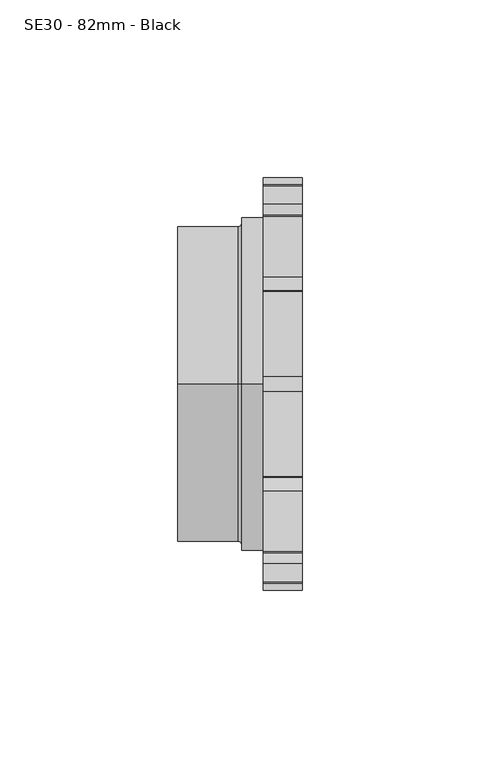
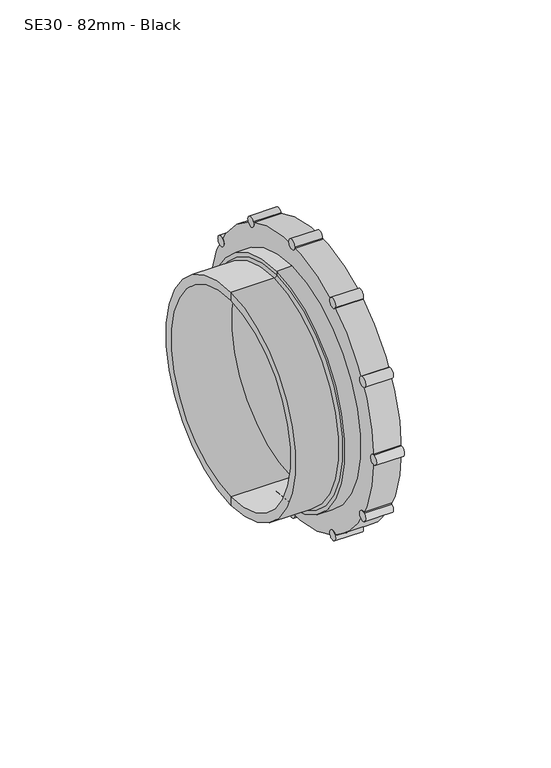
"""IFC4 building model written with IfcOpenShell, lengths in millimetres: pipe fitting geometry, MarleyPlumbingAndDrainage_PipeFitting_AccessCaps : SE30 - 82mm - Black."""

from ifc_helpers import new_model, si_unit, point, frame, frame_2d, origin, place, context, project, spatial, polyline, circle_curve, ellipse_curve, trimmed, segment, composite_curve, outline, extrude, source, transform, mapped, element, save
from ifc_brep_helpers import plane_surface, cylinder_surface, revolved_surface, advanced_brep


def se30_82mm_black_4757cc3a(model_context):
    return source(origin(), model_context, "Body", "SolidModel", [
        extrude(outline(composite_curve([segment(trimmed(circle_curve(frame_2d((48.4974226, 28.0)), 2.0), [point((47.4974226, 29.7320508))], [point((49.4974226, 26.2679492))], False, "CARTESIAN"), True, "CONTINUOUS"), segment(trimmed(circle_curve(frame_2d((48.4974226, 28.0)), 2.0), [point((49.4974226, 26.2679492))], [point((47.4974226, 29.7320508))], False, "CARTESIAN"), True, "CONTINUOUS")], self_intersect=False)), frame((-330.6858175, 0.0, 0.0), z_axis=(1.0, 0.0, 0.0), x_axis=(0.0, 1.0, 0.0)), (0.0, 0.0, 1.0), 11.0),
        extrude(outline(composite_curve([segment(trimmed(circle_curve(frame_2d((56.0, 0.0)), 2.0), [point((56.0, 2.0))], [point((56.0, -2.0))], False, "CARTESIAN"), True, "CONTINUOUS"), segment(trimmed(circle_curve(frame_2d((56.0, 0.0)), 2.0), [point((56.0, -2.0))], [point((56.0, 2.0))], False, "CARTESIAN"), True, "CONTINUOUS")], self_intersect=False)), frame((-330.6858175, 0.0, 0.0), z_axis=(1.0, 0.0, 0.0), x_axis=(0.0, 1.0, 0.0)), (0.0, 0.0, 1.0), 11.0),
        extrude(outline(composite_curve([segment(trimmed(circle_curve(frame_2d((48.4974226, -28.0)), 2.0), [point((49.4974226, -26.2679492))], [point((47.4974226, -29.7320508))], False, "CARTESIAN"), True, "CONTINUOUS"), segment(trimmed(circle_curve(frame_2d((48.4974226, -28.0)), 2.0), [point((47.4974226, -29.7320508))], [point((49.4974226, -26.2679492))], False, "CARTESIAN"), True, "CONTINUOUS")], self_intersect=False)), frame((-330.6858175, 0.0, 0.0), z_axis=(1.0, 0.0, 0.0), x_axis=(0.0, 1.0, 0.0)), (0.0, 0.0, 1.0), 11.0),
        extrude(outline(composite_curve([segment(trimmed(circle_curve(frame_2d((28.0, -48.4974226)), 2.0), [point((29.7320508, -47.4974226))], [point((26.2679492, -49.4974226))], False, "CARTESIAN"), True, "CONTINUOUS"), segment(trimmed(circle_curve(frame_2d((28.0, -48.4974226)), 2.0), [point((26.2679492, -49.4974226))], [point((29.7320508, -47.4974226))], False, "CARTESIAN"), True, "CONTINUOUS")], self_intersect=False)), frame((-330.6858175, 0.0, 0.0), z_axis=(1.0, 0.0, 0.0), x_axis=(0.0, 1.0, 0.0)), (0.0, 0.0, 1.0), 11.0),
        extrude(outline(composite_curve([segment(trimmed(circle_curve(frame_2d((0.0, -56.0)), 2.0), [point((2.0, -56.0))], [point((-2.0, -56.0))], False, "CARTESIAN"), True, "CONTINUOUS"), segment(trimmed(circle_curve(frame_2d((0.0, -56.0)), 2.0), [point((-2.0, -56.0))], [point((2.0, -56.0))], False, "CARTESIAN"), True, "CONTINUOUS")], self_intersect=False)), frame((-330.6858175, 0.0, 0.0), z_axis=(1.0, 0.0, 0.0), x_axis=(0.0, 1.0, 0.0)), (0.0, 0.0, 1.0), 11.0),
        extrude(outline(composite_curve([segment(trimmed(circle_curve(frame_2d((-28.0, -48.4974226)), 2.0), [point((-26.2679492, -49.4974226))], [point((-29.7320508, -47.4974226))], False, "CARTESIAN"), True, "CONTINUOUS"), segment(trimmed(circle_curve(frame_2d((-28.0, -48.4974226)), 2.0), [point((-29.7320508, -47.4974226))], [point((-26.2679492, -49.4974226))], False, "CARTESIAN"), True, "CONTINUOUS")], self_intersect=False)), frame((-330.6858175, 0.0, 0.0), z_axis=(1.0, 0.0, 0.0), x_axis=(0.0, 1.0, 0.0)), (0.0, 0.0, 1.0), 11.0),
        extrude(outline(composite_curve([segment(trimmed(circle_curve(frame_2d((-48.4974226, -28.0)), 2.0), [point((-47.4974226, -29.7320508))], [point((-49.4974226, -26.2679492))], False, "CARTESIAN"), True, "CONTINUOUS"), segment(trimmed(circle_curve(frame_2d((-48.4974226, -28.0)), 2.0), [point((-49.4974226, -26.2679492))], [point((-47.4974226, -29.7320508))], False, "CARTESIAN"), True, "CONTINUOUS")], self_intersect=False)), frame((-330.6858175, 0.0, 0.0), z_axis=(1.0, 0.0, 0.0), x_axis=(0.0, 1.0, 0.0)), (0.0, 0.0, 1.0), 11.0),
        extrude(outline(composite_curve([segment(trimmed(circle_curve(frame_2d((-56.0, 0.0)), 2.0), [point((-56.0, -2.0))], [point((-56.0, 2.0))], False, "CARTESIAN"), True, "CONTINUOUS"), segment(trimmed(circle_curve(frame_2d((-56.0, 0.0)), 2.0), [point((-56.0, 2.0))], [point((-56.0, -2.0))], False, "CARTESIAN"), True, "CONTINUOUS")], self_intersect=False)), frame((-330.6858175, 0.0, 0.0), z_axis=(1.0, 0.0, 0.0), x_axis=(0.0, 1.0, 0.0)), (0.0, 0.0, 1.0), 11.0),
        extrude(outline(composite_curve([segment(trimmed(circle_curve(frame_2d((-48.4974226, 28.0)), 2.0), [point((-49.4974226, 26.2679492))], [point((-47.4974226, 29.7320508))], False, "CARTESIAN"), True, "CONTINUOUS"), segment(trimmed(circle_curve(frame_2d((-48.4974226, 28.0)), 2.0), [point((-47.4974226, 29.7320508))], [point((-49.4974226, 26.2679492))], False, "CARTESIAN"), True, "CONTINUOUS")], self_intersect=False)), frame((-330.6858175, 0.0, 0.0), z_axis=(1.0, 0.0, 0.0), x_axis=(0.0, 1.0, 0.0)), (0.0, 0.0, 1.0), 11.0),
        extrude(outline(composite_curve([segment(trimmed(circle_curve(frame_2d((-28.0, 48.4974226)), 2.0), [point((-29.7320508, 47.4974226))], [point((-26.2679492, 49.4974226))], False, "CARTESIAN"), True, "CONTINUOUS"), segment(trimmed(circle_curve(frame_2d((-28.0, 48.4974226)), 2.0), [point((-26.2679492, 49.4974226))], [point((-29.7320508, 47.4974226))], False, "CARTESIAN"), True, "CONTINUOUS")], self_intersect=False)), frame((-330.6858175, 0.0, 0.0), z_axis=(1.0, 0.0, 0.0), x_axis=(0.0, 1.0, 0.0)), (0.0, 0.0, 1.0), 11.0),
        extrude(outline(composite_curve([segment(trimmed(circle_curve(frame_2d((28.0, 48.4974226)), 2.0), [point((26.2679492, 49.4974226))], [point((29.7320508, 47.4974226))], False, "CARTESIAN"), True, "CONTINUOUS"), segment(trimmed(circle_curve(frame_2d((28.0, 48.4974226)), 2.0), [point((29.7320508, 47.4974226))], [point((26.2679492, 49.4974226))], False, "CARTESIAN"), True, "CONTINUOUS")], self_intersect=False)), frame((-330.6858175, 0.0, 0.0), z_axis=(1.0, 0.0, 0.0), x_axis=(0.0, 1.0, 0.0)), (0.0, 0.0, 1.0), 11.0),
        extrude(outline(composite_curve([segment(trimmed(circle_curve(frame_2d((0.0, 56.0)), 2.0), [point((-2.0, 56.0))], [point((2.0, 56.0))], False, "CARTESIAN"), True, "CONTINUOUS"), segment(trimmed(circle_curve(frame_2d((0.0, 56.0)), 2.0), [point((2.0, 56.0))], [point((-2.0, 56.0))], False, "CARTESIAN"), True, "CONTINUOUS")], self_intersect=False)), frame((-330.6858175, 0.0, 0.0), z_axis=(1.0, 0.0, 0.0), x_axis=(0.0, 1.0, 0.0)), (0.0, 0.0, 1.0), 11.0),
        advanced_brep(
        [(-319.6858175, -56.0, 0.0), (-319.6858175, 56.0, 0.0), (-319.6858175, -20.0908802, -48.5036755), (-319.6858175, -18.7514882, -45.2700971), (-319.6858175, 18.7514882, -45.2700971), (-319.6858175, 20.0908802, -48.5036755), (-319.6858175, 48.5036755, -20.0908802), (-319.6858175, 45.2700971, -18.7514882), (-319.6858175, 45.2700971, 18.7514882), (-319.6858175, 48.5036755, 20.0908802), (-319.6858175, -45.2700971, 18.7514882), (-319.6858175, -45.2700971, -18.7514882), (-319.6858175, -48.5036755, -20.0908802), (-319.6858175, -48.5036755, 20.0908802), (-319.6858175, -18.7514882, 45.2700971), (-319.6858175, -20.0908802, 48.5036755), (-319.6858175, 20.0908802, 48.5036755), (-319.6858175, 18.7514882, 45.2700971), (-330.6858175, -56.0, 0.0), (-330.6858175, 56.0, 0.0), (-330.6858175, 0.0, -47.0), (-330.6858175, 0.0, 47.0), (-330.6858175, 0.0, 41.0), (-330.6858175, 0.0, -41.0), (-325.6858175, -18.7514882, -45.2700971), (-325.6858175, -20.0908802, -48.5036755), (-325.6858175, 20.0908802, -48.5036755), (-325.6858175, 18.7514882, -45.2700971), (-325.6858175, 45.2700971, -18.7514882), (-325.6858175, 48.5036755, -20.0908802), (-325.6858175, 48.5036755, 20.0908802), (-325.6858175, 45.2700971, 18.7514882), (-325.6858175, -45.2700971, -18.7514882), (-325.6858175, -45.2700971, 18.7514882), (-325.6858175, -48.5036755, 20.0908802), (-325.6858175, -48.5036755, -20.0908802), (-325.6858175, -20.0908802, 48.5036755), (-325.6858175, -18.7514882, 45.2700971), (-325.6858175, 18.7514882, 45.2700971), (-325.6858175, 20.0908802, 48.5036755), (-336.6858175, 0.0, -47.0), (-336.6858175, 0.0, 47.0), (-336.6858175, 0.0, -45.5), (-336.6858175, 0.0, 45.5), (-337.6858175, 0.0, -44.5), (-337.6858175, 0.0, 44.5), (-354.6858175, 0.0, -44.5), (-354.6858175, 0.0, 44.5), (-354.6858175, 0.0, -41.0), (-354.6858175, 0.0, 41.0)],
        [
            (0, 1, circle_curve(frame((-319.6858175, 0.0, 0.0), z_axis=(1.0, 0.0, 0.0), x_axis=(0.0, 1.0, 0.0)), 56.0)),
            (1, 0, circle_curve(frame((-319.6858175, 0.0, 0.0), z_axis=(1.0, 0.0, 0.0), x_axis=(0.0, 1.0, 0.0)), 56.0)),
            (2, 3),
            (3, 4, circle_curve(frame((-319.6858175, 0.0, 0.0), z_axis=(1.0, 0.0, 0.0), x_axis=(0.0, 1.0, 0.0)), 49.0)),
            (4, 5),
            (5, 2, circle_curve(frame((-319.6858175, 0.0, 0.0), z_axis=(-1.0, 0.0, 0.0), x_axis=(0.0, 1.0, 0.0)), 52.5)),
            (6, 7),
            (7, 8, circle_curve(frame((-319.6858175, 0.0, 0.0), z_axis=(1.0, 0.0, 0.0), x_axis=(0.0, 1.0, 0.0)), 49.0)),
            (8, 9),
            (9, 6, circle_curve(frame((-319.6858175, 0.0, 0.0), z_axis=(-1.0, 0.0, 0.0), x_axis=(0.0, 1.0, 0.0)), 52.5)),
            (10, 11, circle_curve(frame((-319.6858175, 0.0, 0.0), z_axis=(1.0, 0.0, 0.0), x_axis=(0.0, 1.0, 0.0)), 49.0)),
            (11, 12),
            (12, 13, circle_curve(frame((-319.6858175, 0.0, 0.0), z_axis=(-1.0, 0.0, 0.0), x_axis=(0.0, 1.0, 0.0)), 52.5)),
            (13, 10),
            (14, 15),
            (15, 16, circle_curve(frame((-319.6858175, 0.0, 0.0), z_axis=(-1.0, 0.0, 0.0), x_axis=(0.0, 1.0, 0.0)), 52.5)),
            (16, 17),
            (17, 14, circle_curve(frame((-319.6858175, 0.0, 0.0), z_axis=(1.0, 0.0, 0.0), x_axis=(0.0, 1.0, 0.0)), 49.0)),
            (18, 19, circle_curve(frame((-330.6858175, 0.0, 0.0), z_axis=(-1.0, 0.0, 0.0), x_axis=(0.0, 1.0, 0.0)), 56.0)),
            (19, 18, circle_curve(frame((-330.6858175, 0.0, 0.0), z_axis=(-1.0, 0.0, 0.0), x_axis=(0.0, 1.0, 0.0)), 56.0)),
            (20, 21, circle_curve(frame((-330.6858175, 0.0, 0.0), z_axis=(1.0, 0.0, 0.0), x_axis=(0.0, 0.0, 1.0)), 47.0)),
            (21, 20, circle_curve(frame((-330.6858175, 0.0, 0.0), z_axis=(1.0, 0.0, 0.0), x_axis=(0.0, 0.0, 1.0)), 47.0)),
            (22, 23, circle_curve(frame((-330.6858175, 0.0, 0.0), z_axis=(-1.0, 0.0, 0.0), x_axis=(0.0, 0.0, 1.0)), 41.0)),
            (23, 22, circle_curve(frame((-330.6858175, 0.0, 0.0), z_axis=(-1.0, 0.0, 0.0), x_axis=(0.0, 0.0, 1.0)), 41.0)),
            (0, 18),
            (19, 1),
            (24, 25),
            (25, 26, circle_curve(frame((-325.6858175, 0.0, 0.0), z_axis=(1.0, 0.0, 0.0), x_axis=(0.0, 1.0, 0.0)), 52.5)),
            (26, 27),
            (27, 24, circle_curve(frame((-325.6858175, 0.0, 0.0), z_axis=(-1.0, 0.0, 0.0), x_axis=(0.0, 1.0, 0.0)), 49.0)),
            (28, 29),
            (29, 30, circle_curve(frame((-325.6858175, 0.0, 0.0), z_axis=(1.0, 0.0, 0.0), x_axis=(0.0, 1.0, 0.0)), 52.5)),
            (30, 31),
            (31, 28, circle_curve(frame((-325.6858175, 0.0, 0.0), z_axis=(-1.0, 0.0, 0.0), x_axis=(0.0, 1.0, 0.0)), 49.0)),
            (32, 33, circle_curve(frame((-325.6858175, 0.0, 0.0), z_axis=(-1.0, 0.0, 0.0), x_axis=(0.0, 1.0, 0.0)), 49.0)),
            (33, 34),
            (34, 35, circle_curve(frame((-325.6858175, 0.0, 0.0), z_axis=(1.0, 0.0, 0.0), x_axis=(0.0, 1.0, 0.0)), 52.5)),
            (35, 32),
            (36, 37),
            (37, 38, circle_curve(frame((-325.6858175, 0.0, 0.0), z_axis=(-1.0, 0.0, 0.0), x_axis=(0.0, 1.0, 0.0)), 49.0)),
            (38, 39),
            (39, 36, circle_curve(frame((-325.6858175, 0.0, 0.0), z_axis=(1.0, 0.0, 0.0), x_axis=(0.0, 1.0, 0.0)), 52.5)),
            (24, 3),
            (2, 25),
            (5, 26),
            (4, 27),
            (28, 7),
            (6, 29),
            (9, 30),
            (8, 31),
            (32, 11),
            (10, 33),
            (13, 34),
            (12, 35),
            (36, 15),
            (14, 37),
            (17, 38),
            (16, 39),
            (40, 41, circle_curve(frame((-336.6858175, 0.0, 0.0), z_axis=(1.0, 0.0, 0.0), x_axis=(0.0, 0.0, 1.0)), 47.0)),
            (41, 21),
            (20, 40),
            (41, 40, circle_curve(frame((-336.6858175, 0.0, 0.0), z_axis=(1.0, 0.0, 0.0), x_axis=(0.0, 0.0, 1.0)), 47.0)),
            (40, 42),
            (42, 43, circle_curve(frame((-336.6858175, 0.0, 0.0), z_axis=(1.0, 0.0, 0.0), x_axis=(0.0, 0.0, 1.0)), 45.5)),
            (43, 41),
            (43, 42, circle_curve(frame((-336.6858175, 0.0, 0.0), z_axis=(1.0, 0.0, 0.0), x_axis=(0.0, 0.0, 1.0)), 45.5)),
            (42, 44, circle_curve(frame((-337.6858175, 0.0, -45.5), z_axis=(0.0, -1.0, 0.0), x_axis=(1.0, 0.0, 0.0)), 1.0)),
            (44, 45, circle_curve(frame((-337.6858175, 0.0, 0.0), z_axis=(1.0, 0.0, 0.0), x_axis=(0.0, 0.0, 1.0)), 44.5)),
            (45, 43, circle_curve(frame((-337.6858175, 0.0, 45.5), z_axis=(0.0, -1.0, 0.0), x_axis=(1.0, 0.0, 0.0)), 1.0)),
            (45, 44, circle_curve(frame((-337.6858175, 0.0, 0.0), z_axis=(1.0, 0.0, 0.0), x_axis=(0.0, 0.0, 1.0)), 44.5)),
            (44, 46),
            (46, 47, circle_curve(frame((-354.6858175, 0.0, 0.0), z_axis=(1.0, 0.0, 0.0), x_axis=(0.0, 0.0, 1.0)), 44.5)),
            (47, 45),
            (47, 46, circle_curve(frame((-354.6858175, 0.0, 0.0), z_axis=(1.0, 0.0, 0.0), x_axis=(0.0, 0.0, 1.0)), 44.5)),
            (46, 48),
            (48, 49, circle_curve(frame((-354.6858175, 0.0, 0.0), z_axis=(1.0, 0.0, 0.0), x_axis=(0.0, 0.0, 1.0)), 41.0)),
            (49, 47),
            (49, 48, circle_curve(frame((-354.6858175, 0.0, 0.0), z_axis=(1.0, 0.0, 0.0), x_axis=(0.0, 0.0, 1.0)), 41.0)),
            (48, 23),
            (22, 49),
        ],
        [
            plane_surface(frame((-319.6858175, 56.0, 0.0), z_axis=(1.0, 0.0, 0.0), x_axis=(0.0, 0.0, 1.0))),
            plane_surface(frame((-330.6858175, 56.0, 0.0), z_axis=(-1.0, 0.0, 0.0), x_axis=(0.0, 0.0, -1.0))),
            cylinder_surface(frame((-330.6858175, 0.0, 0.0), z_axis=(1.0, 0.0, 0.0), x_axis=(0.0, 1.0, 0.0)), 56.0),
            plane_surface(frame((-325.6858175, -20.0908802, -48.5036755), z_axis=(1.0, 0.0, 0.0), x_axis=(0.0, 0.3826834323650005, 0.9238795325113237))),
            plane_surface(frame((-319.6858175, -18.7514882, -45.2700971), z_axis=(0.0, 0.9238795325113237, -0.3826834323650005), x_axis=(-1.0, 0.0, 0.0))),
            revolved_surface(polyline([(-319.6858175, 52.5, 0.0), (-325.6858175, 52.5, 0.0)]), (-325.6858175, 0.0, 0.0), (1.0, 0.0, 0.0)),
            plane_surface(frame((-319.6858175, 20.0908802, -48.5036755), z_axis=(0.0, -0.9238795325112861, -0.3826834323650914), x_axis=(-1.0, 0.0, 0.0))),
            cylinder_surface(frame((-325.6858175, 0.0, 0.0), z_axis=(-1.0, 0.0, 0.0), x_axis=(0.0, 1.0, 0.0)), 49.0),
            plane_surface(frame((-319.6858175, 45.2700971, -18.7514882), z_axis=(0.0, 0.3826834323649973, 0.9238795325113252), x_axis=(-1.0, 0.0, 0.0))),
            revolved_surface(polyline([(-319.6858175, 52.5, 0.0), (-325.6858175, 52.5, 0.0)]), (-330.6858175, 0.0, 0.0), (1.0, 0.0, 0.0)),
            plane_surface(frame((-319.6858175, 48.5036755, 20.0908802), z_axis=(0.0, 0.3826834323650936, -0.9238795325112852), x_axis=(-1.0, 0.0, 0.0))),
            cylinder_surface(frame((-330.6858175, 0.0, 0.0), z_axis=(-1.0, 0.0, 0.0), x_axis=(0.0, 1.0, 0.0)), 49.0),
            plane_surface(frame((-319.6858175, -45.2700971, 18.7514882), z_axis=(0.0, -0.38268343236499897, -0.9238795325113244), x_axis=(-1.0, 0.0, 0.0))),
            plane_surface(frame((-319.6858175, -48.5036755, -20.0908802), z_axis=(0.0, -0.3826834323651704, 0.9238795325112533), x_axis=(-1.0, 0.0, 0.0))),
            plane_surface(frame((-319.6858175, -20.0908802, 48.5036755), z_axis=(0.0, 0.9238795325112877, 0.38268343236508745), x_axis=(-1.0, 0.0, 0.0))),
            plane_surface(frame((-319.6858175, 18.7514882, 45.2700971), z_axis=(0.0, -0.9238795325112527, 0.38268343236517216), x_axis=(-1.0, 0.0, 0.0))),
            cylinder_surface(frame((-1513.0299635, 0.0, 0.0), z_axis=(-1.0, 0.0, 0.0), x_axis=(0.0, 0.0, 1.0)), 47.0),
            plane_surface(frame((-336.6858175, 0.0, 0.0), z_axis=(-1.0, 0.0, 0.0), x_axis=(0.0, 0.0, 1.0))),
            revolved_surface(trimmed(ellipse_curve(frame((-337.6858175, 0.0, 45.5), z_axis=(0.0, 1.0, 0.0), x_axis=(1.0, 0.0, 0.0)), 1.0, 1.0), [point((-336.6858175, 0.0, 45.5))], [point((-337.6858175, 0.0, 44.5))], True, "CARTESIAN"), (-1513.0299635, 0.0, 0.0), (-1.0, 0.0, 0.0)),
            cylinder_surface(frame((-1513.0299635, 0.0, 0.0), z_axis=(-1.0, 0.0, 0.0), x_axis=(0.0, 0.0, 1.0)), 44.5),
            plane_surface(frame((-354.6858175, 0.0, 0.0), z_axis=(-1.0, 0.0, 0.0), x_axis=(0.0, 0.0, 1.0))),
            revolved_surface(polyline([(-354.6858175, 0.0, 41.0), (-330.6858175, 0.0, 41.0)]), (-1513.0299635, 0.0, 0.0), (-1.0, 0.0, 0.0)),
        ],
        [
            (0, [[1, 2], [3, 4, 5, 6], [7, 8, 9, 10], [11, 12, 13, 14], [15, 16, 17, 18]]),
            (1, [[19, 20], [21, 22]]),
            (1, [[23, 24]]),
            (2, [[-1, 25, -20, 26]]),
            (2, [[-2, -26, -19, -25]]),
            (3, [[27, 28, 29, 30]]),
            (3, [[31, 32, 33, 34]]),
            (3, [[35, 36, 37, 38]]),
            (3, [[39, 40, 41, 42]]),
            (4, [[-27, 43, -3, 44]]),
            (5, [[-28, -44, -6, 45]]),
            (6, [[-29, -45, -5, 46]]),
            (7, [[-30, -46, -4, -43]]),
            (8, [[-31, 47, -7, 48]]),
            (9, [[-32, -48, -10, 49]]),
            (10, [[-33, -49, -9, 50]]),
            (11, [[-34, -50, -8, -47]]),
            (11, [[-35, 51, -11, 52]]),
            (12, [[-36, -52, -14, 53]]),
            (9, [[-37, -53, -13, 54]]),
            (13, [[-38, -54, -12, -51]]),
            (14, [[-39, 55, -15, 56]]),
            (11, [[-40, -56, -18, 57]]),
            (15, [[-41, -57, -17, 58]]),
            (9, [[-42, -58, -16, -55]]),
            (16, [[59, 60, -21, 61]]),
            (16, [[-60, 62, -61, -22]]),
            (17, [[-59, 63, 64, 65]]),
            (17, [[-62, -65, 66, -63]]),
            (18, [[-64, 67, 68, 69]]),
            (18, [[-66, -69, 70, -67]]),
            (19, [[-68, 71, 72, 73]]),
            (19, [[-70, -73, 74, -71]]),
            (20, [[-72, 75, 76, 77]]),
            (20, [[-74, -77, 78, -75]]),
            (21, [[-76, 79, -23, 80]]),
            (21, [[-78, -80, -24, -79]]),
        ],
    ),
    ])


if __name__ == "__main__":
    model = new_model("IFC4")
    model_context = context("Model", 3, world=origin())
    ifc_project = project(units=[si_unit("LENGTHUNIT", "METRE", prefix="MILLI")], contexts=[model_context])
    site = spatial("IfcSite", under=ifc_project)
    building = spatial("IfcBuilding", under=site)
    placement = place(None, origin())
    se30_82mm_black_shape = se30_82mm_black_4757cc3a(model_context)
    element("IfcPipeFitting", 1, ObjectType="MarleyPlumbingAndDrainage_PipeFitting_AccessCaps : SE30 - 82mm - Black", at=placement, inside=building, context=model_context, shape_type="MappedRepresentation", body=[
        mapped(se30_82mm_black_shape, transform((0.0, 0.0, 0.0), x_axis=(1.0, 0.0, 0.0), y_axis=(0.0, 1.0, 0.0), z_axis=(0.0, 0.0, 1.0))),
    ])
    save(model, "model.ifc")
